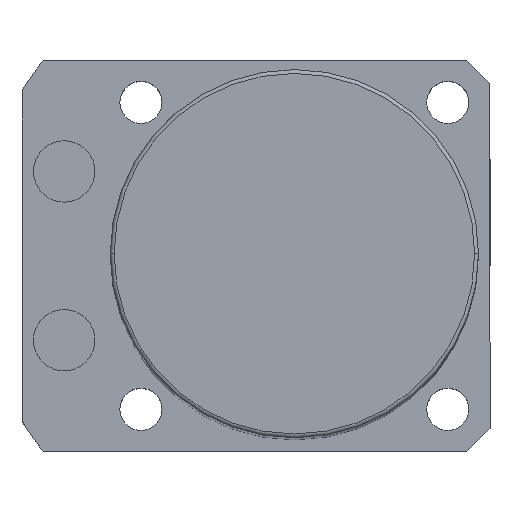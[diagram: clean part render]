
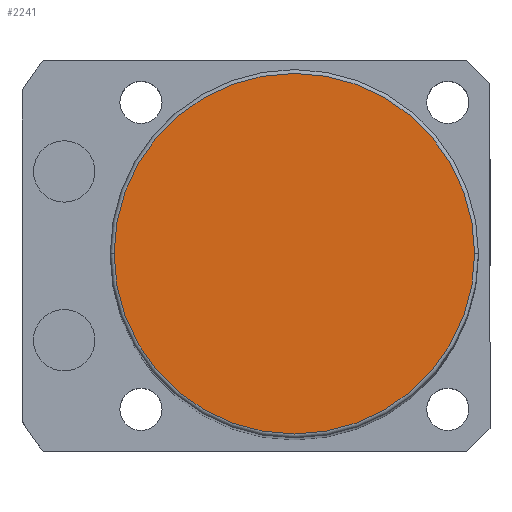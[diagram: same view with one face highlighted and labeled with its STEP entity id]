
A CAD part, top view. The second image highlights one B-rep face of the part: STEP entity #2241.
In plain terms, the highlighted planar face has unit normal (0, 0, 1).
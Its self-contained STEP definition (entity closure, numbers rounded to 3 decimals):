
#22 = AXIS2_PLACEMENT_3D ( 'NONE', #2494, #2479, #1120 ) ;
#179 = DIRECTION ( 'NONE',  ( 1., 0., 0. ) ) ;
#232 = ORIENTED_EDGE ( 'NONE', *, *, #1142, .T. ) ;
#419 = ORIENTED_EDGE ( 'NONE', *, *, #576, .T. ) ;
#576 = EDGE_CURVE ( 'NONE', #2142, #2496, #1643, .T. ) ;
#712 = DIRECTION ( 'NONE',  ( 0., 0., 1. ) ) ;
#729 = DIRECTION ( 'NONE',  ( 0., 0., 1. ) ) ;
#1027 = AXIS2_PLACEMENT_3D ( 'NONE', #2305, #712, #1683 ) ;
#1120 = DIRECTION ( 'NONE',  ( 1., 0., 0. ) ) ;
#1142 = EDGE_CURVE ( 'NONE', #2496, #2142, #1306, .T. ) ;
#1297 = AXIS2_PLACEMENT_3D ( 'NONE', #1721, #729, #179 ) ;
#1306 = CIRCLE ( 'NONE', #22, 23.5 ) ;
#1643 = CIRCLE ( 'NONE', #1027, 23.5 ) ;
#1653 = EDGE_LOOP ( 'NONE', ( #232, #419 ) ) ;
#1683 = DIRECTION ( 'NONE',  ( 1., 0., 0. ) ) ;
#1721 = CARTESIAN_POINT ( 'NONE',  ( 0., 0., 171. ) ) ;
#2142 = VERTEX_POINT ( 'NONE', #2449 ) ;
#2221 = CARTESIAN_POINT ( 'NONE',  ( 23.5, 0., 171. ) ) ;
#2241 = ADVANCED_FACE ( 'NONE', ( #2535 ), #2510, .T. ) ;
#2305 = CARTESIAN_POINT ( 'NONE',  ( 0., 0., 171. ) ) ;
#2449 = CARTESIAN_POINT ( 'NONE',  ( -23.5, 0., 171. ) ) ;
#2479 = DIRECTION ( 'NONE',  ( 0., 0., 1. ) ) ;
#2494 = CARTESIAN_POINT ( 'NONE',  ( 0., 0., 171. ) ) ;
#2496 = VERTEX_POINT ( 'NONE', #2221 ) ;
#2510 = PLANE ( 'NONE',  #1297 ) ;
#2535 = FACE_OUTER_BOUND ( 'NONE', #1653, .T. ) ;
